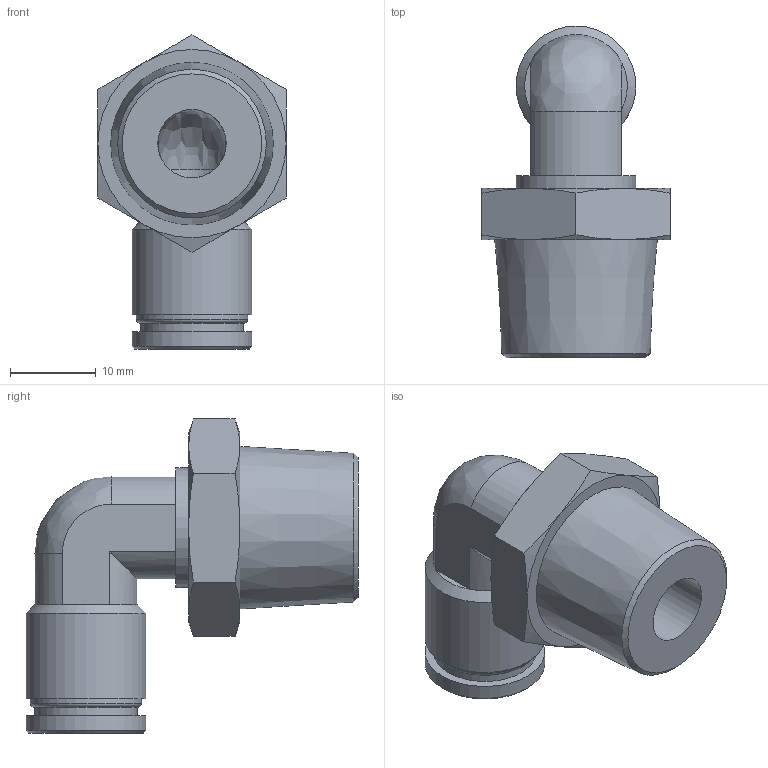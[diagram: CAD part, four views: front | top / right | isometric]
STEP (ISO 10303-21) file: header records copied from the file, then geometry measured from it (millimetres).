
FILE_DESCRIPTION(/* description */ (''),/* implementation_level */ '2;1');
FILE_NAME(/* name */ 'LXH21 0010 B4.stp',/* time_stamp */ '2026-05-01T12:20:49+02:00',/* author */ ('freju'),/* organization */ (''),/* preprocessor_version */ 'ST-DEVELOPER v20.1',/* originating_system */ 'Autodesk Inventor 2026',/* authorisation */ '');
FILE_SCHEMA (('AUTOMOTIVE_DESIGN { 1 0 10303 214 3 1 1 }'));
Length unit declared in the file: millimetre
Products named in the file (1): LXH21 0010 B4
Bounding box: 22 x 38.8 x 36.7 mm (x, y, z)
Volume: 7228.6 mm3; surface area: 4890.8 mm2
Topology: 1 solids, 1 shells, 51 faces, 116 edges, 69 vertices
Faces by surface type: plane 18, cone 16, cylinder 12, bspline 4, torus 1
Full cylindrical faces by diameter (mm): 8 x2, 10 x1, 12 x1, 13 x1, 14 x3
Entity records: 1471 total; most frequent: CARTESIAN_POINT 337, DIRECTION 242, ORIENTED_EDGE 224, EDGE_CURVE 112, AXIS2_PLACEMENT_3D 106, VERTEX_POINT 69, EDGE_LOOP 59, CIRCLE 56
